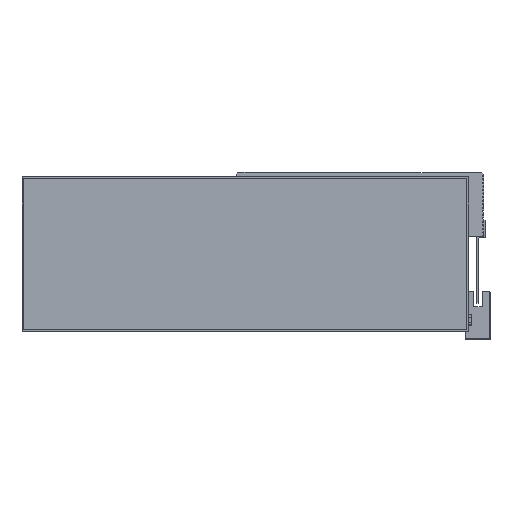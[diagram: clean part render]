
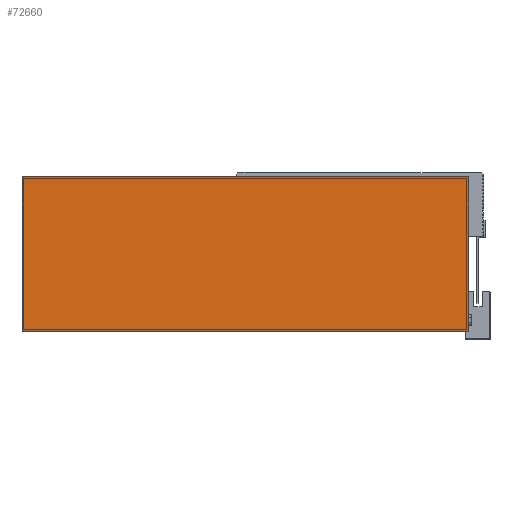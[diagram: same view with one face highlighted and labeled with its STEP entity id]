
A CAD part, top view. The second image highlights one B-rep face of the part: STEP entity #72660.
In plain terms, the highlighted planar face has unit normal (0, 0, 1) as drawn and (0, 0, -1) by its records, which use the part's own axes.
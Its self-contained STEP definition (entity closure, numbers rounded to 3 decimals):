
#1214 = CARTESIAN_POINT ( 'NONE',  ( -126.25, 43.75, -1. ) ) ;
#5806 = LINE ( 'NONE', #41291, #86685 ) ;
#9239 = EDGE_CURVE ( 'NONE', #19123, #23428, #5806, .T. ) ;
#10190 = LINE ( 'NONE', #96545, #91096 ) ;
#11983 = DIRECTION ( 'NONE',  ( 0., 1., 0. ) ) ;
#12155 = DIRECTION ( 'NONE',  ( 0., -1., 0. ) ) ;
#16782 = EDGE_LOOP ( 'NONE', ( #71341, #132996, #25387, #137346 ) ) ;
#18746 = DIRECTION ( 'NONE',  ( 1., 0., 0. ) ) ;
#19123 = VERTEX_POINT ( 'NONE', #39837 ) ;
#22995 = AXIS2_PLACEMENT_3D ( 'NONE', #92206, #50364, #124217 ) ;
#23428 = VERTEX_POINT ( 'NONE', #36622 ) ;
#24841 = LINE ( 'NONE', #1214, #52920 ) ;
#25387 = ORIENTED_EDGE ( 'NONE', *, *, #112934, .T. ) ;
#27291 = VERTEX_POINT ( 'NONE', #62234 ) ;
#31642 = VECTOR ( 'NONE', #18746, 1000. ) ;
#36622 = CARTESIAN_POINT ( 'NONE',  ( -126.25, -43.75, -1. ) ) ;
#39837 = CARTESIAN_POINT ( 'NONE',  ( 126.25, -43.75, -1. ) ) ;
#41291 = CARTESIAN_POINT ( 'NONE',  ( -126.25, -43.75, -1. ) ) ;
#41314 = VERTEX_POINT ( 'NONE', #42451 ) ;
#41756 = DIRECTION ( 'NONE',  ( -1., 0., 0. ) ) ;
#42451 = CARTESIAN_POINT ( 'NONE',  ( 126.25, 43.75, -1. ) ) ;
#50364 = DIRECTION ( 'NONE',  ( 0., 0., 1. ) ) ;
#52920 = VECTOR ( 'NONE', #11983, 1000. ) ;
#62234 = CARTESIAN_POINT ( 'NONE',  ( -126.25, 43.75, -1. ) ) ;
#70286 = EDGE_CURVE ( 'NONE', #23428, #27291, #24841, .T. ) ;
#70877 = CARTESIAN_POINT ( 'NONE',  ( -126.25, 43.75, -1. ) ) ;
#71341 = ORIENTED_EDGE ( 'NONE', *, *, #70286, .T. ) ;
#72660 = ADVANCED_FACE ( 'NONE', ( #114347 ), #134421, .F. ) ;
#86685 = VECTOR ( 'NONE', #41756, 1000. ) ;
#91096 = VECTOR ( 'NONE', #12155, 1000. ) ;
#92206 = CARTESIAN_POINT ( 'NONE',  ( 0., 0., -1. ) ) ;
#96545 = CARTESIAN_POINT ( 'NONE',  ( 126.25, 43.75, -1. ) ) ;
#112934 = EDGE_CURVE ( 'NONE', #41314, #19123, #10190, .T. ) ;
#114347 = FACE_OUTER_BOUND ( 'NONE', #16782, .T. ) ;
#115844 = LINE ( 'NONE', #70877, #31642 ) ;
#124217 = DIRECTION ( 'NONE',  ( 1., 0., 0. ) ) ;
#131495 = EDGE_CURVE ( 'NONE', #27291, #41314, #115844, .T. ) ;
#132996 = ORIENTED_EDGE ( 'NONE', *, *, #131495, .T. ) ;
#134421 = PLANE ( 'NONE',  #22995 ) ;
#137346 = ORIENTED_EDGE ( 'NONE', *, *, #9239, .T. ) ;
